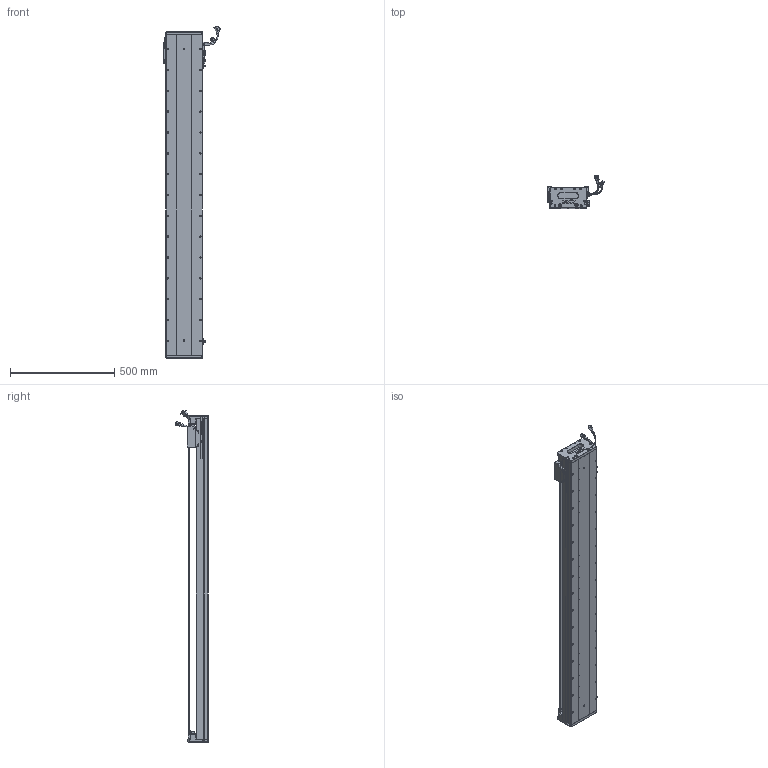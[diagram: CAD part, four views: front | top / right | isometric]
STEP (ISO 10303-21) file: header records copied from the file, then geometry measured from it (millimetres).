
FILE_DESCRIPTION (( 'STEP AP203' ), '1' );
FILE_NAME ('Z1-RY170D-1-L500-B-K.SLDASM_1350.step', '2021-05-17T08:52:57', ( '盈信电脑' ), ( '东莞市道滘镇水果街19号' ), 'SwSTEP 2.0', 'SolidWorks 2016', '' );
FILE_SCHEMA (( 'CONFIG_CONTROL_DESIGN' ));
Length unit declared in the file: millimetre
Products named in the file (36): Z1-RY170臏賑輸(21遴); Z1-RY170-L500耀郪菁釱_1350; Z-170詩湍傷裔啣; HOLDER0; HARNESS; SCALE; Z1-RY170D-1-L500-B-K.SLDASM_1350; 170-Z-臏賑輸盄裔(21遴); SCREW-M1.6-1; RY170直线电机感应器672光电感应片; SHIELDPLATE; 榋妏寠巭燃_暯_M2_2; Z-RY170詩湍狟揤裔; SEAL-Part-1; LABEL; LABEL-Part-1; COVER; HARNESS-Part-1; 覜茼ん672; PSLH080_PSLF2; 140雄赽晤鎢ん堤盄; SCREW-M1.6; Z1-RY170-L500詩湍145mm遵_1350; Z-RY170詩湍奻揤裔; SEAL; SCREW-M1.6-2; SCREW-M1.7; HARNESS-Part-2; PBU_SHEET; SCREW-M1.7-1; 140蚥薯蝶輸; SCREW-M1.6-3; COVER-Part-1; SCALE-Part-2; 080黍杅芛假蚾釱21遴; SCALE-Part-1
Assembly tree (41 placements, depth 4):
  Z1-RY170D-1-L500-B-K.SLDASM_1350
    Z1-RY170-L500耀郪菁釱_1350
    RY170直线电机感应器672光电感应片
    Z1-RY170臏賑輸(21遴)
    覜茼ん672  x3
    PSLH080_PSLF2
      SCALE
        SCALE-Part-1
        SCALE-Part-2
      HARNESS
        HARNESS-Part-1
        HARNESS-Part-2
      LABEL
        LABEL-Part-1
      COVER
        COVER-Part-1
      SEAL
        SEAL-Part-1
      榋妏寠巭燃_暯_M2_2
      SHIELDPLATE
      SCREW-M1.7
      SCREW-M1.7-1
      PBU_SHEET
      SCREW-M1.6
      SCREW-M1.6-1
      SCREW-M1.6-2
      SCREW-M1.6-3
      HOLDER0
    080黍杅芛假蚾釱21遴
    Z1-RY170-L500詩湍145mm遵_1350
    Z-170詩湍傷裔啣  x2
    Z-RY170詩湍奻揤裔  x2
    Z-RY170詩湍狟揤裔  x2
    140蚥薯蝶輸  x2
    170-Z-臏賑輸盄裔(21遴)
    140雄赽晤鎢ん堤盄
Bounding box: 275.33 x 158.11 x 1593.72 mm (x, y, z)
Volume: 8039876.6 mm3; surface area: 2002138.8 mm2
Topology: 36 solids, 36 shells, 3268 faces, 8867 edges, 5561 vertices
Faces by surface type: cylinder 1538, plane 1188, cone 420, torus 69, bspline 53
Entity records: 98223 total; most frequent: CARTESIAN_POINT 26062, ORIENTED_EDGE 14466, DIRECTION 13913, EDGE_CURVE 7233, AXIS2_PLACEMENT_3D 5086, VERTEX_POINT 4679, LINE 3741, VECTOR 3741
